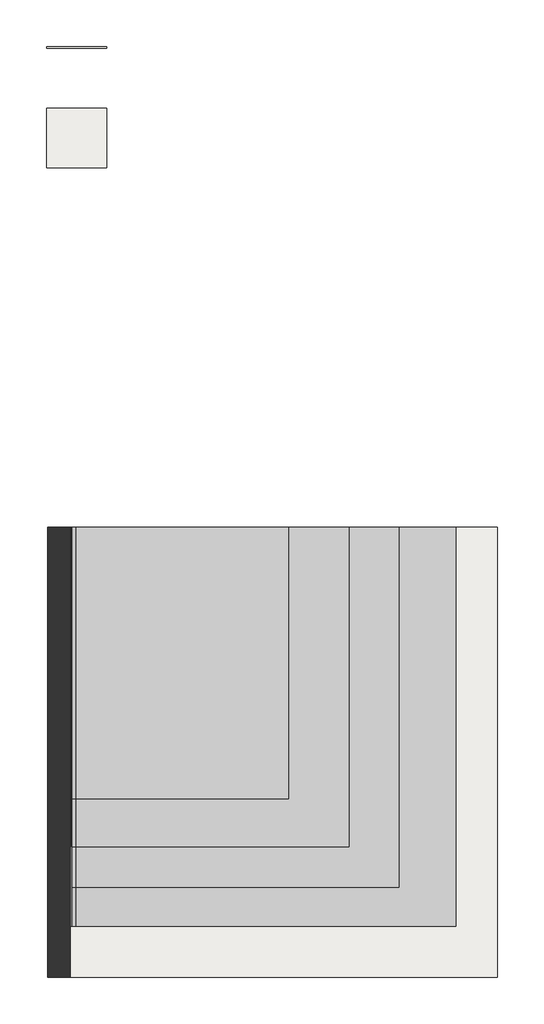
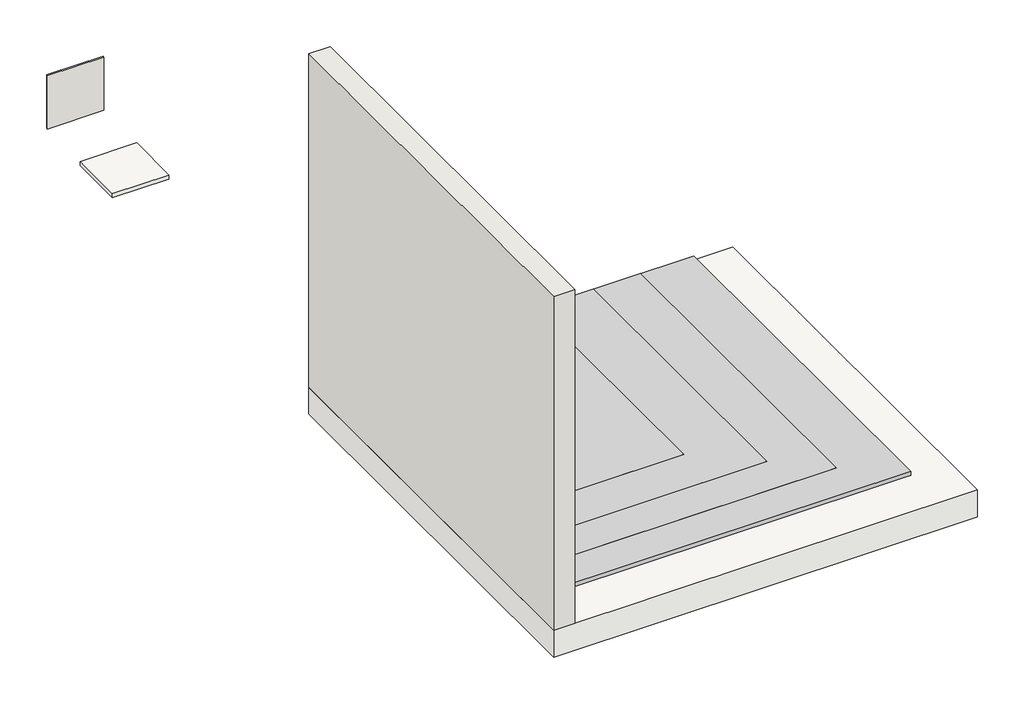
# One storey: 2 slabs, 2 walls, 1 proxy.
"""IFC4 building model written with IfcOpenShell, lengths in millimetres."""

from ifc_helpers import new_model, si_unit, frame, origin, place, context, project, spatial, polyline, outline, extrude, transform, mapped, element, save
from components import generic_models_990b24d9

model = new_model("IFC4")

# Units and contexts
model_context = context("Model", 3, world=origin())
ifc_project = project(units=[si_unit("LENGTHUNIT", "METRE", prefix="MILLI")], contexts=[model_context])

# Site, building, storey
site = spatial("IfcSite", under=ifc_project)
building = spatial("IfcBuilding", under=site)
storey = spatial("IfcBuildingStorey", under=building, Name="ARQ Térreo", Elevation=-2.523798)

# Proxy
placement = place(None, origin())
generic_models_shape = generic_models_990b24d9(model_context)
element("IfcBuildingElementProxy", 1, Name="IMPER:IMPER:433934 : IMPER:IMPER:433934", ObjectType="IMPER:IMPER:433934 : IMPER:IMPER:433934", at=placement, inside=storey, context=model_context, shape_type="MappedRepresentation", body=[
    mapped(generic_models_shape, transform((0.0, 0.0, 0.0), x_axis=(1.0, 0.0, 0.0), y_axis=(0.0, 1.0, 0.0), z_axis=(0.0, 0.0, 1.0))),
])

# Slabs
element("IfcSlab", 2, ObjectType="IMPH_VEDALAGEPLUS", at=placement, inside=storey, context=model_context, shape_type="SweptSolid", body=[
    extrude(outline(polyline([(-508.4496081, 2938.9349646), (-108.4496081, 2938.9349646), (-108.4496081, 2541.9349646), (-508.4496081, 2541.9349646), (-508.4496081, 2938.9349646)])), frame((0.0, 0.0, -33.523798), z_axis=(0.0, 0.0, 1.0), x_axis=(1.0, 0.0, 0.0)), (0.0, 0.0, 1.0), 31.0),
])
element("IfcSlab", 3, ObjectType="Piso:LAJE CONCRETO", at=placement, inside=storey, context=model_context, shape_type="SweptSolid", body=[
    extrude(outline(polyline([(-501.9704105, 145.8700195), (2498.0295895, 145.8700195), (2498.0295895, -2854.1299805), (-501.9704105, -2854.1299805), (-501.9704105, 145.8700195)])), frame((0.0, 0.0, -202.523798), z_axis=(0.0, 0.0, 1.0), x_axis=(1.0, 0.0, 0.0)), (0.0, 0.0, 1.0), 200.0),
])

# Walls
element("IfcWall", 4, ObjectType="Parede básica:Parede Concreto", at=placement, inside=storey, context=model_context, shape_type="SweptSolid", body=[
    extrude(outline(polyline([(-501.9704105, -2854.1299805), (-501.9704105, 145.8700195), (-351.9704105, 145.8700195), (-351.9704105, -2854.1299805), (-501.9704105, -2854.1299805)])), frame((0.0, 0.0, -2.523798), z_axis=(0.0, 0.0, 1.0), x_axis=(1.0, 0.0, 0.0)), (0.0, 0.0, 1.0), 2500.0),
])
element("IfcWall", 5, ObjectType="IMPV_VEDALAGEPLUS", at=placement, inside=storey, context=model_context, shape_type="SweptSolid", body=[
    extrude(outline(polyline([(-508.4496081, 3349.9349646), (-108.4496081, 3349.9349646), (-108.4496081, 3338.9349646), (-508.4496081, 3338.9349646), (-508.4496081, 3349.9349646)])), frame((0.0, 0.0, -2.523798), z_axis=(0.0, 0.0, 1.0), x_axis=(1.0, 0.0, 0.0)), (0.0, 0.0, 1.0), 400.0),
])

save(model, "model.ifc")
